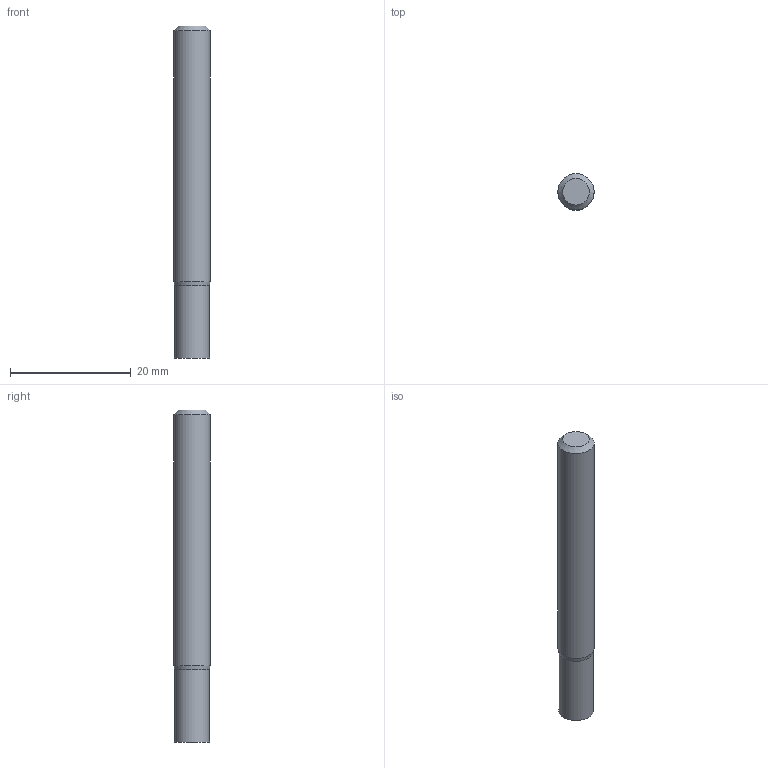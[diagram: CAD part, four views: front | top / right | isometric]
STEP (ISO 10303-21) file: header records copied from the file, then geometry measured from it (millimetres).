
FILE_DESCRIPTION((''),'2;1');
FILE_NAME('C:\Users\nsx150\AppData\Local\Temp\Mastercam 2021\98T1Q6BTT1\TEMP.step','2021-10-21T14:48:59',(''),(''),'STEP Write','Mastercam 2021 ... CNC Software, Inc.','');
FILE_SCHEMA(('AUTOMOTIVE_DESIGN'));
Length unit declared in the file: millimetre
Products named in the file (1): None
Bounding box: 6 x 6 x 55 mm (x, y, z)
Volume: 1526.8 mm3; surface area: 1127 mm2
Topology: 2 solids, 2 shells, 8 faces, 10 edges, 6 vertices
Faces by surface type: plane 4, cylinder 2, cone 2
Full cylindrical faces by diameter (mm): 5.8 x1, 6 x1
Entity records: 190 total; most frequent: DIRECTION 32, CARTESIAN_POINT 22, AXIS2_PLACEMENT_3D 16, ORIENTED_EDGE 12, EDGE_LOOP 12, STYLED_ITEM 11, ADVANCED_FACE 8, VERTEX_POINT 6
